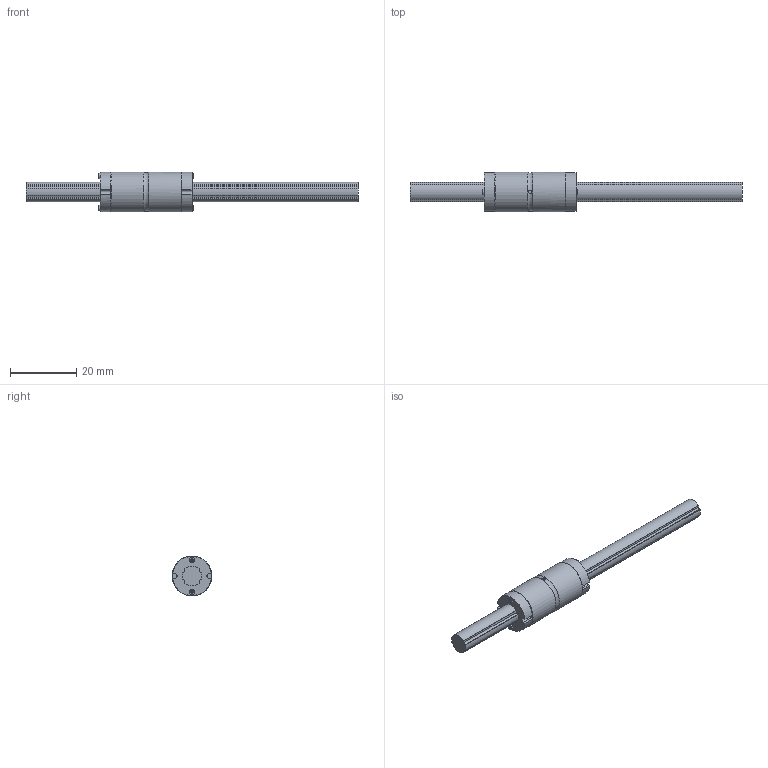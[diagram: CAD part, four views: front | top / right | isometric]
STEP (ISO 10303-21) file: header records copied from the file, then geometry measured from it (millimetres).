
FILE_DESCRIPTION(/* description */ ('STEP AP214'),/* implementation_level */ '2;1');
FILE_NAME(/* name */ 'LT6XL+100L(00)',/* time_stamp */ '2024-09-05T14:13:26+02:00',/* author */ ('License CC BY-ND 4.0'),/* organization */ ('CADENAS'),/* preprocessor_version */ 'ST-DEVELOPER v19.3',/* originating_system */ 'PARTsolutions',/* authorisation */ ' ');
FILE_SCHEMA (('AUTOMOTIVE_DESIGN {1 0 10303 214 3 1 1}'));
Length unit declared in the file: millimetre
Products named in the file (3): LT6XL+100L(00); 1LT6XL 100Shaft; 1LT6XL Cylindar
Assembly tree (2 placements, depth 2):
  LT6XL+100L(00)
    1LT6XL 100Shaft
    1LT6XL Cylindar
Bounding box: 100 x 12 x 12 mm (x, y, z)
Volume: 5027.6 mm3; surface area: 3783.1 mm2
Topology: 2 solids, 2 shells, 136 faces, 366 edges, 242 vertices
Faces by surface type: plane 83, cylinder 50, cone 2, torus 1
Full cylindrical faces by diameter (mm): 1 x2, 1.6 x4, 12 x2
Entity records: 4269 total; most frequent: CARTESIAN_POINT 781, DIRECTION 716, ORIENTED_EDGE 696, EDGE_CURVE 348, LINE 242, VECTOR 242, AXIS2_PLACEMENT_3D 237, VERTEX_POINT 234
